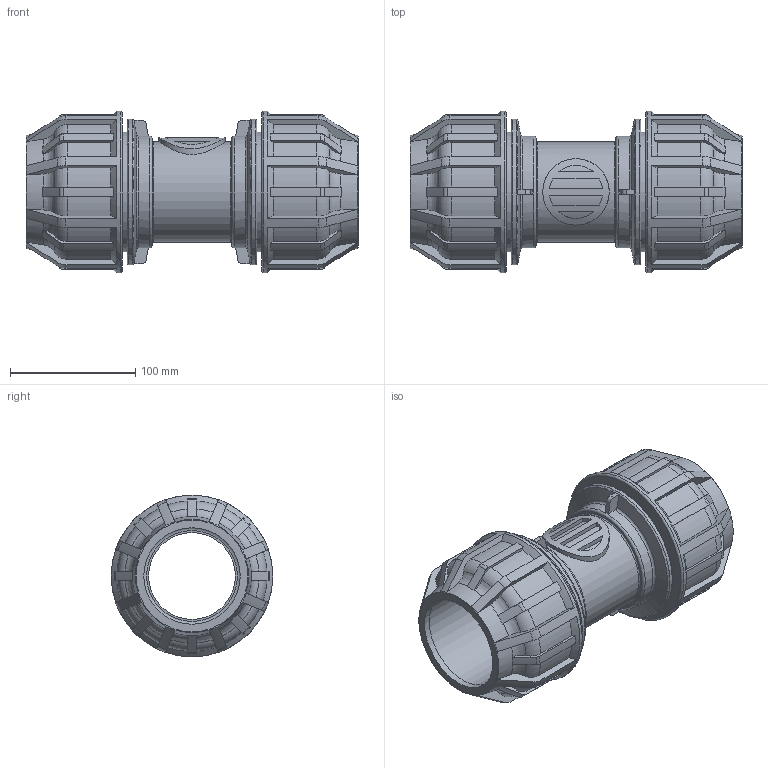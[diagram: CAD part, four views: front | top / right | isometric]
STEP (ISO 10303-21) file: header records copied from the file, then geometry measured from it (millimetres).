
FILE_DESCRIPTION(/* description */ ('STEP AP214'),/* implementation_level */ '2;1');
FILE_NAME(/* name */ '331B00075(400)',/* time_stamp */ '2025-01-13T14:33:46+01:00',/* author */ ('License CC BY-ND 4.0'),/* organization */ ('CADENAS'),/* preprocessor_version */ 'ST-DEVELOPER v19.3',/* originating_system */ 'PARTsolutions',/* authorisation */ ' ');
FILE_SCHEMA (('AUTOMOTIVE_DESIGN {1 0 10303 214 3 1 1}'));
Length unit declared in the file: millimetre
Products named in the file (1): 331B00075(400)
Bounding box: 265 x 129 x 129 mm (x, y, z)
Volume: 1149754.9 mm3; surface area: 200666.6 mm2
Topology: 1 solids, 1 shells, 362 faces, 1024 edges, 679 vertices
Faces by surface type: torus 114, plane 98, cylinder 82, cone 68
Full cylindrical faces by diameter (mm): 53 x1, 69.3 x1, 77 x2, 79 x2, 79.98 x1, 89.01 x2, 95.46 x2, 116.1 x2, 129 x2
Entity records: 12481 total; most frequent: CARTESIAN_POINT 3832, ORIENTED_EDGE 1972, DIRECTION 1578, EDGE_CURVE 986, AXIS2_PLACEMENT_3D 695, VERTEX_POINT 670, B_SPLINE_CURVE_WITH_KNOTS 466, EDGE_LOOP 408
